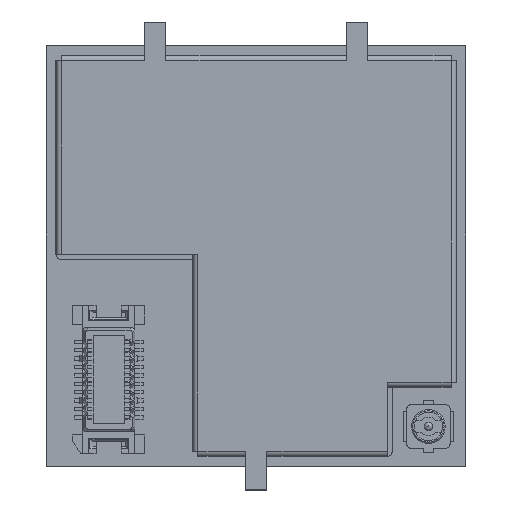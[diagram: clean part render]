
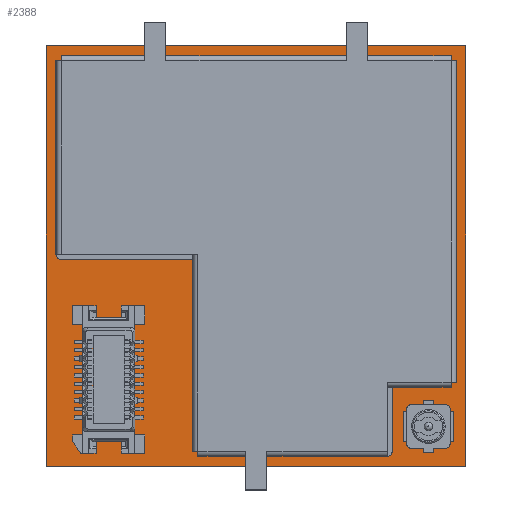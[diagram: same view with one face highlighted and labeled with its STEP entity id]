
A CAD part, top view. The second image highlights one B-rep face of the part: STEP entity #2388.
In plain terms, the highlighted planar face has unit normal (0, 0, 1).
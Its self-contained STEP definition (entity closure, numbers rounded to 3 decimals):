
#2388 = ADVANCED_FACE( '', ( #5200 ), #5201, .T. );
#5200 = FACE_OUTER_BOUND( '', #8582, .T. );
#5201 = PLANE( '', #8583 );
#8582 = EDGE_LOOP( '', ( #15317, #15318, #15319, #15320 ) );
#8583 = AXIS2_PLACEMENT_3D( '', #15321, #15322, #15323 );
#15317 = ORIENTED_EDGE( '', *, *, #21629, .T. );
#15318 = ORIENTED_EDGE( '', *, *, #21498, .T. );
#15319 = ORIENTED_EDGE( '', *, *, #21630, .T. );
#15320 = ORIENTED_EDGE( '', *, *, #21631, .T. );
#15321 = CARTESIAN_POINT( '', ( 0., 0., 0. ) );
#15322 = DIRECTION( '', ( 0., 0., 1. ) );
#15323 = DIRECTION( '', ( 1., 0., 0. ) );
#21498 = EDGE_CURVE( '', #26297, #26298, #26299, .T. );
#21629 = EDGE_CURVE( '', #26452, #26297, #26453, .T. );
#21630 = EDGE_CURVE( '', #26298, #26454, #26455, .T. );
#21631 = EDGE_CURVE( '', #26454, #26452, #26456, .T. );
#26297 = VERTEX_POINT( '', #33130 );
#26298 = VERTEX_POINT( '', #33131 );
#26299 = LINE( '', #33132, #33133 );
#26452 = VERTEX_POINT( '', #33364 );
#26453 = LINE( '', #33365, #33366 );
#26454 = VERTEX_POINT( '', #33367 );
#26455 = LINE( '', #33368, #33369 );
#26456 = LINE( '', #33370, #33371 );
#33130 = CARTESIAN_POINT( '', ( 25.019, 25.044, 0. ) );
#33131 = CARTESIAN_POINT( '', ( 0., 25.044, 0. ) );
#33132 = CARTESIAN_POINT( '', ( 25.019, 25.044, 0. ) );
#33133 = VECTOR( '', #36744, 1000. );
#33364 = CARTESIAN_POINT( '', ( 25.019, 0., 0. ) );
#33365 = CARTESIAN_POINT( '', ( 25.019, 0., 0. ) );
#33366 = VECTOR( '', #36841, 1000. );
#33367 = CARTESIAN_POINT( '', ( 0., 0., 0. ) );
#33368 = CARTESIAN_POINT( '', ( 0., 25.044, 0. ) );
#33369 = VECTOR( '', #36842, 1000. );
#33370 = CARTESIAN_POINT( '', ( 0., 0., 0. ) );
#33371 = VECTOR( '', #36843, 1000. );
#36744 = DIRECTION( '', ( -1., 0., 0. ) );
#36841 = DIRECTION( '', ( 0., 1., 0. ) );
#36842 = DIRECTION( '', ( 0., -1., 0. ) );
#36843 = DIRECTION( '', ( 1., 0., 0. ) );
